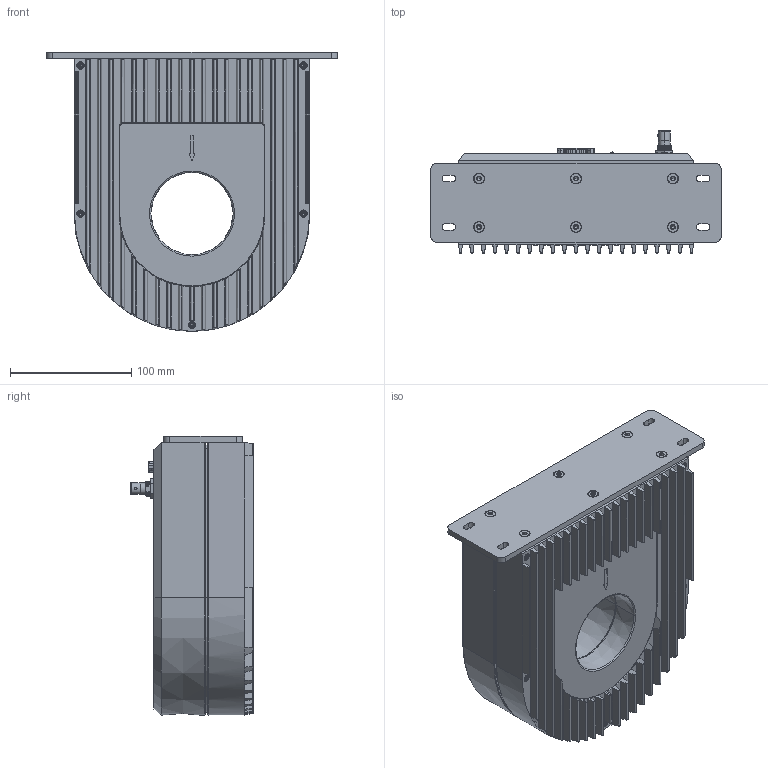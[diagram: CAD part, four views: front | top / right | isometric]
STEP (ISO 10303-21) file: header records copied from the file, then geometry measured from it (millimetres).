
FILE_DESCRIPTION (( 'STEP AP214' ), '1' );
FILE_NAME ('1212200006_DL2000UB-xx.STEP', '2020-08-27T12:07:23', ( '' ), ( '' ), 'SwSTEP 2.0', 'SolidWorks 2019', '' );
FILE_SCHEMA (( 'AUTOMOTIVE_DESIGN' ));
Length unit declared in the file: millimetre
Products named in the file (1): 1212200006_DL2000UB-xx
Bounding box: 240 x 101.2 x 230.37 mm (x, y, z)
Surface area: 238309.2 mm2 (no closed solid volume)
Topology: 0 solids, 35 shells, 783 faces, 2638 edges, 1832 vertices
Faces by surface type: plane 263, cylinder 245, cone 182, bspline 48, torus 43, sphere 2
Entity records: 44542 total; most frequent: CARTESIAN_POINT 14705, ORIENTED_EDGE 4324, DIRECTION 4018, EDGE_CURVE 2594, VERTEX_POINT 1830, AXIS2_PLACEMENT_3D 1446, VECTOR 1126, LINE 1126
